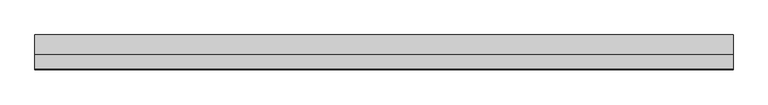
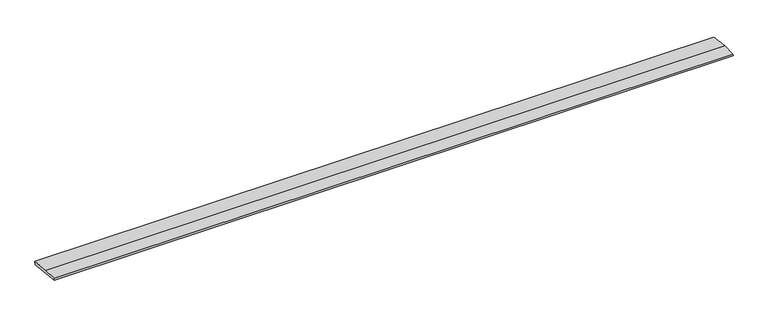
"""IFC4 building model written with IfcOpenShell, lengths in millimetres: beam geometry, weatherboad : weatherboad."""

from ifc_helpers import new_model, si_unit, frame, origin, place, context, project, spatial, polyline, outline, extrude, source, transform, mapped, element, save


def beam_31db28c5(model_context):
    return source(origin(), model_context, "Body", "SweptSolid", [
        extrude(outline(polyline([(0.0, -9.143159), (1.1226388, 0.0), (79.0749747, 0.0), (180.9387048, -12.5072934), (178.6231873, -31.3656703), (0.0, -9.143159)])), frame((-1819.6158424, 0.0, 0.0), z_axis=(1.0, 0.0, 0.0), x_axis=(0.0, 1.0, 0.0)), (0.0, 0.0, 1.0), 3639.2316847),
    ])


if __name__ == "__main__":
    model = new_model("IFC4")
    model_context = context("Model", 3, world=origin())
    ifc_project = project(units=[si_unit("LENGTHUNIT", "METRE", prefix="MILLI")], contexts=[model_context])
    site = spatial("IfcSite", under=ifc_project)
    building = spatial("IfcBuilding", under=site)
    placement = place(None, origin())
    beam_shape = beam_31db28c5(model_context)
    element("IfcBeam", 1, ObjectType="weatherboad : weatherboad", at=placement, inside=building, context=model_context, shape_type="MappedRepresentation", body=[
        mapped(beam_shape, transform((0.0, 0.0, 0.0), x_axis=(1.0, 0.0, 0.0), y_axis=(0.0, 1.0, 0.0), z_axis=(0.0, 0.0, 1.0))),
    ])
    save(model, "model.ifc")
